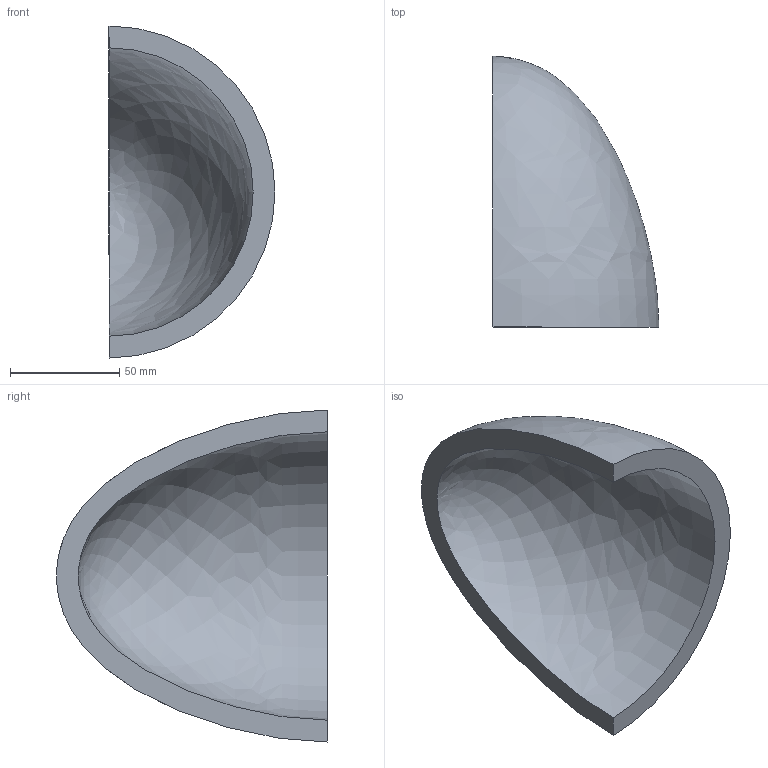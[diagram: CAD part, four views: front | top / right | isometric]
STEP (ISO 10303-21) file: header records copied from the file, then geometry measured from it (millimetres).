
FILE_DESCRIPTION(('CATIA V5 STEP Exchange'),'2;1');
FILE_NAME('C:\_Andres\UNIVERSIDAD\IQS\ASIGNATURAS\DAO\EXF\EXF-16172c\2inicio\Puig_Bataller_Ej10_v24.stp','2017-03-05T22:31:14+00:00',('none'),('none'),'CATIA Version 5-6 Release 2014 SP1 HF18','CATIA V5 STEP AP203','none');
FILE_SCHEMA(('CONFIG_CONTROL_DESIGN'));
Length unit declared in the file: millimetre
Products named in the file (1): Puig_Bataller_Ej10_v24
Bounding box: 76 x 124 x 152 mm (x, y, z)
Volume: 228181 mm3; surface area: 50984 mm2
Topology: 1 solids, 1 shells, 4 faces, 10 edges, 6 vertices
Faces by surface type: revolution 2, plane 2
Entity records: 248 total; most frequent: CARTESIAN_POINT 126, ORIENTED_EDGE 16, DIRECTION 10, EDGE_CURVE 8, B_SPLINE_CURVE_WITH_KNOTS 6, VERTEX_POINT 6, AXIS2_PLACEMENT_3D 5, ADVANCED_FACE 4
